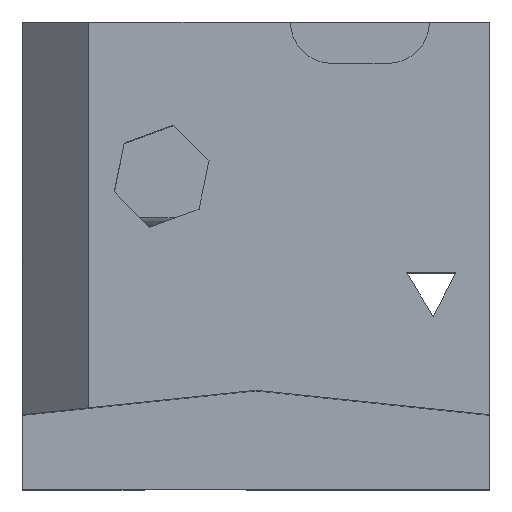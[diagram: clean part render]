
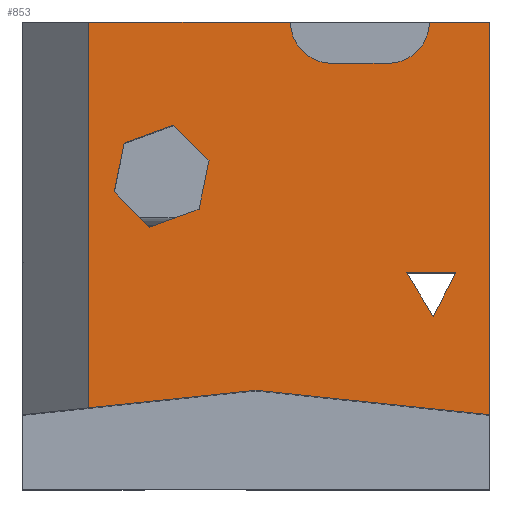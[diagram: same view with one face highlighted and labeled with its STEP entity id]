
A CAD part, top view. The second image highlights one B-rep face of the part: STEP entity #853.
In plain terms, the highlighted planar face has unit normal (0, 0, 1).
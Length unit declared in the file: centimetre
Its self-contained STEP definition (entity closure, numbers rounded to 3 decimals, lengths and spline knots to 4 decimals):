
#16 = DIRECTION ( 'NONE',  ( 0., 0., 1. ) ) ;
#33 = DIRECTION ( 'NONE',  ( -0.199, -0.98, 0. ) ) ;
#36 = ORIENTED_EDGE ( 'NONE', *, *, #1587, .F. ) ;
#73 = CARTESIAN_POINT ( 'NONE',  ( 196.5226, 636.1758, 1000. ) ) ;
#85 = EDGE_CURVE ( 'NONE', #348, #1634, #1268, .T. ) ;
#86 = EDGE_CURVE ( 'NONE', #402, #163, #1534, .T. ) ;
#96 = AXIS2_PLACEMENT_3D ( 'NONE', #781, #16, #156 ) ;
#100 = ORIENTED_EDGE ( 'NONE', *, *, #414, .F. ) ;
#108 = DIRECTION ( 'NONE',  ( 1., 0., 0. ) ) ;
#113 = CARTESIAN_POINT ( 'NONE',  ( 141.6223, 174.2078, 1000. ) ) ;
#132 = VECTOR ( 'NONE', #1555, 100. ) ;
#156 = DIRECTION ( 'NONE',  ( 1., 0., 0. ) ) ;
#163 = VERTEX_POINT ( 'NONE', #212 ) ;
#174 = EDGE_CURVE ( 'NONE', #947, #710, #589, .T. ) ;
#175 = LINE ( 'NONE', #692, #231 ) ;
#176 = CARTESIAN_POINT ( 'NONE',  ( 141.6223, 0., 1000. ) ) ;
#181 = LINE ( 'NONE', #680, #1250 ) ;
#184 = FACE_BOUND ( 'NONE', #929, .T. ) ;
#191 = CARTESIAN_POINT ( 'NONE',  ( 378.0626, 599.2182, 1000. ) ) ;
#198 = ORIENTED_EDGE ( 'NONE', *, *, #1582, .F. ) ;
#203 = EDGE_CURVE ( 'NONE', #833, #785, #1345, .T. ) ;
#212 = CARTESIAN_POINT ( 'NONE',  ( 1000., 1000., 1000. ) ) ;
#231 = VECTOR ( 'NONE', #1041, 100. ) ;
#235 = DIRECTION ( 'NONE',  ( 0.199, 0.98, 0. ) ) ;
#254 = VECTOR ( 'NONE', #1033, 100. ) ;
#262 = LINE ( 'NONE', #1155, #1283 ) ;
#263 = LINE ( 'NONE', #408, #847 ) ;
#269 = CARTESIAN_POINT ( 'NONE',  ( 879.308, 369.8212, 1000. ) ) ;
#277 = CARTESIAN_POINT ( 'NONE',  ( 141.6223, 1000., 1000. ) ) ;
#297 = LINE ( 'NONE', #1461, #1475 ) ;
#299 = DIRECTION ( 'NONE',  ( 1., 0., 0. ) ) ;
#302 = LINE ( 'NONE', #176, #799 ) ;
#304 = FACE_BOUND ( 'NONE', #793, .T. ) ;
#309 = ORIENTED_EDGE ( 'NONE', *, *, #174, .F. ) ;
#317 = ORIENTED_EDGE ( 'NONE', *, *, #203, .F. ) ;
#318 = CARTESIAN_POINT ( 'NONE',  ( 782.7104, 911.6292, 1000. ) ) ;
#328 = VECTOR ( 'NONE', #108, 100. ) ;
#348 = VERTEX_POINT ( 'NONE', #318 ) ;
#377 = DIRECTION ( 'NONE',  ( 0., 1., 0. ) ) ;
#390 = VECTOR ( 'NONE', #1614, 100. ) ;
#402 = VERTEX_POINT ( 'NONE', #1372 ) ;
#408 = CARTESIAN_POINT ( 'NONE',  ( 0., 1000., 1000. ) ) ;
#414 = EDGE_CURVE ( 'NONE', #710, #816, #1105, .T. ) ;
#418 = ORIENTED_EDGE ( 'NONE', *, *, #1392, .F. ) ;
#445 = AXIS2_PLACEMENT_3D ( 'NONE', #1458, #561, #299 ) ;
#455 = CARTESIAN_POINT ( 'NONE',  ( 662.2085, 911.6292, 1000. ) ) ;
#461 = LINE ( 'NONE', #1299, #1441 ) ;
#506 = DIRECTION ( 'NONE',  ( 1., 0., 0. ) ) ;
#522 = DIRECTION ( 'NONE',  ( -1., 0., 0. ) ) ;
#523 = CARTESIAN_POINT ( 'NONE',  ( 323.907, 779.5234, 1000. ) ) ;
#527 = CARTESIAN_POINT ( 'NONE',  ( 822.3655, 463.7025, 1000. ) ) ;
#540 = CARTESIAN_POINT ( 'NONE',  ( 573.8377, 1000., 1000. ) ) ;
#561 = DIRECTION ( 'NONE',  ( 0., 0., 1. ) ) ;
#570 = ORIENTED_EDGE ( 'NONE', *, *, #1466, .F. ) ;
#571 = EDGE_CURVE ( 'NONE', #785, #941, #1039, .T. ) ;
#588 = VERTEX_POINT ( 'NONE', #113 ) ;
#589 = LINE ( 'NONE', #733, #952 ) ;
#593 = CARTESIAN_POINT ( 'NONE',  ( 782.7104, 1000., 1000. ) ) ;
#594 = LINE ( 'NONE', #1266, #328 ) ;
#598 = CARTESIAN_POINT ( 'NONE',  ( 822.3655, 463.7025, 1000. ) ) ;
#612 = CARTESIAN_POINT ( 'NONE',  ( 500., 211.6255, 1000. ) ) ;
#655 = VECTOR ( 'NONE', #235, 100. ) ;
#678 = DIRECTION ( 'NONE',  ( -0.995, -0.104, 0. ) ) ;
#680 = CARTESIAN_POINT ( 'NONE',  ( 1000., 159.4212, 1000. ) ) ;
#692 = CARTESIAN_POINT ( 'NONE',  ( 272.0157, 560.6827, 1000. ) ) ;
#704 = EDGE_LOOP ( 'NONE', ( #198, #1008, #1148, #418, #892, #1036, #824, #1420, #570 ) ) ;
#710 = VERTEX_POINT ( 'NONE', #527 ) ;
#722 = VECTOR ( 'NONE', #754, 100. ) ;
#733 = CARTESIAN_POINT ( 'NONE',  ( 928.0301, 463.7025, 1000. ) ) ;
#741 = DIRECTION ( 'NONE',  ( -1., 0., 0. ) ) ;
#744 = EDGE_CURVE ( 'NONE', #1053, #1160, #262, .T. ) ;
#754 = DIRECTION ( 'NONE',  ( 0.519, -0.855, 0. ) ) ;
#781 = CARTESIAN_POINT ( 'NONE',  ( 662.2085, 1000., 1000. ) ) ;
#785 = VERTEX_POINT ( 'NONE', #837 ) ;
#793 = EDGE_LOOP ( 'NONE', ( #36, #100, #309 ) ) ;
#799 = VECTOR ( 'NONE', #1206, 100. ) ;
#816 = VERTEX_POINT ( 'NONE', #1202 ) ;
#824 = ORIENTED_EDGE ( 'NONE', *, *, #1574, .T. ) ;
#827 = VERTEX_POINT ( 'NONE', #455 ) ;
#833 = VERTEX_POINT ( 'NONE', #1185 ) ;
#835 = CARTESIAN_POINT ( 'NONE',  ( 196.5226, 636.1758, 1000. ) ) ;
#837 = CARTESIAN_POINT ( 'NONE',  ( 399.4001, 704.0303, 1000. ) ) ;
#847 = VECTOR ( 'NONE', #1156, 100. ) ;
#853 = ADVANCED_FACE ( 'NONE', ( #304, #184, #946 ), #1583, .T. ) ;
#892 = ORIENTED_EDGE ( 'NONE', *, *, #1046, .F. ) ;
#903 = ORIENTED_EDGE ( 'NONE', *, *, #1271, .F. ) ;
#904 = AXIS2_PLACEMENT_3D ( 'NONE', #593, #987, #506 ) ;
#929 = EDGE_LOOP ( 'NONE', ( #317, #1045, #903, #1349, #1061, #1569 ) ) ;
#941 = VERTEX_POINT ( 'NONE', #1521 ) ;
#946 = FACE_OUTER_BOUND ( 'NONE', #704, .T. ) ;
#947 = VERTEX_POINT ( 'NONE', #1402 ) ;
#952 = VECTOR ( 'NONE', #741, 100. ) ;
#987 = DIRECTION ( 'NONE',  ( 0., 0., 1. ) ) ;
#1008 = ORIENTED_EDGE ( 'NONE', *, *, #744, .T. ) ;
#1033 = DIRECTION ( 'NONE',  ( 0.461, 0.888, 0. ) ) ;
#1036 = ORIENTED_EDGE ( 'NONE', *, *, #86, .T. ) ;
#1039 = LINE ( 'NONE', #1531, #132 ) ;
#1041 = DIRECTION ( 'NONE',  ( 0.94, 0.342, 0. ) ) ;
#1045 = ORIENTED_EDGE ( 'NONE', *, *, #1087, .F. ) ;
#1046 = EDGE_CURVE ( 'NONE', #402, #1456, #181, .T. ) ;
#1053 = VERTEX_POINT ( 'NONE', #540 ) ;
#1056 = EDGE_CURVE ( 'NONE', #1386, #1656, #297, .T. ) ;
#1061 = ORIENTED_EDGE ( 'NONE', *, *, #1573, .F. ) ;
#1082 = LINE ( 'NONE', #835, #390 ) ;
#1087 = EDGE_CURVE ( 'NONE', #1192, #833, #175, .T. ) ;
#1105 = LINE ( 'NONE', #598, #722 ) ;
#1106 = CARTESIAN_POINT ( 'NONE',  ( 272.0157, 560.6827, 1000. ) ) ;
#1122 = CARTESIAN_POINT ( 'NONE',  ( 1000., 1000., 1000. ) ) ;
#1148 = ORIENTED_EDGE ( 'NONE', *, *, #1633, .T. ) ;
#1155 = CARTESIAN_POINT ( 'NONE',  ( 0., 1000., 1000. ) ) ;
#1156 = DIRECTION ( 'NONE',  ( -1., 0., 0. ) ) ;
#1160 = VERTEX_POINT ( 'NONE', #277 ) ;
#1185 = CARTESIAN_POINT ( 'NONE',  ( 378.0626, 599.2182, 1000. ) ) ;
#1191 = CIRCLE ( 'NONE', #96, 88.3708 ) ;
#1192 = VERTEX_POINT ( 'NONE', #1106 ) ;
#1202 = CARTESIAN_POINT ( 'NONE',  ( 879.308, 369.8212, 1000. ) ) ;
#1206 = DIRECTION ( 'NONE',  ( 0., -1., 0. ) ) ;
#1250 = VECTOR ( 'NONE', #1323, 100. ) ;
#1266 = CARTESIAN_POINT ( 'NONE',  ( 662.2085, 911.6292, 1000. ) ) ;
#1268 = CIRCLE ( 'NONE', #904, 88.3708 ) ;
#1271 = EDGE_CURVE ( 'NONE', #1656, #1192, #1082, .T. ) ;
#1283 = VECTOR ( 'NONE', #522, 100. ) ;
#1299 = CARTESIAN_POINT ( 'NONE',  ( 500., 211.6255, 1000. ) ) ;
#1323 = DIRECTION ( 'NONE',  ( -0.995, 0.104, 0. ) ) ;
#1345 = LINE ( 'NONE', #191, #655 ) ;
#1349 = ORIENTED_EDGE ( 'NONE', *, *, #1056, .F. ) ;
#1352 = VECTOR ( 'NONE', #377, 100. ) ;
#1354 = CARTESIAN_POINT ( 'NONE',  ( 871.0813, 1000., 1000. ) ) ;
#1372 = CARTESIAN_POINT ( 'NONE',  ( 1000., 159.4212, 1000. ) ) ;
#1386 = VERTEX_POINT ( 'NONE', #1561 ) ;
#1392 = EDGE_CURVE ( 'NONE', #1456, #588, #461, .T. ) ;
#1402 = CARTESIAN_POINT ( 'NONE',  ( 928.0301, 463.7025, 1000. ) ) ;
#1415 = DIRECTION ( 'NONE',  ( -0.94, -0.342, 0. ) ) ;
#1420 = ORIENTED_EDGE ( 'NONE', *, *, #85, .F. ) ;
#1425 = LINE ( 'NONE', #269, #254 ) ;
#1434 = LINE ( 'NONE', #523, #1594 ) ;
#1441 = VECTOR ( 'NONE', #678, 100. ) ;
#1456 = VERTEX_POINT ( 'NONE', #612 ) ;
#1458 = CARTESIAN_POINT ( 'NONE',  ( 0., 0., 1000. ) ) ;
#1461 = CARTESIAN_POINT ( 'NONE',  ( 217.8601, 740.9879, 1000. ) ) ;
#1466 = EDGE_CURVE ( 'NONE', #827, #348, #594, .T. ) ;
#1475 = VECTOR ( 'NONE', #33, 100. ) ;
#1521 = CARTESIAN_POINT ( 'NONE',  ( 323.907, 779.5234, 1000. ) ) ;
#1531 = CARTESIAN_POINT ( 'NONE',  ( 399.4001, 704.0303, 1000. ) ) ;
#1534 = LINE ( 'NONE', #1122, #1352 ) ;
#1555 = DIRECTION ( 'NONE',  ( -0.707, 0.707, 0. ) ) ;
#1561 = CARTESIAN_POINT ( 'NONE',  ( 217.8601, 740.9879, 1000. ) ) ;
#1569 = ORIENTED_EDGE ( 'NONE', *, *, #571, .F. ) ;
#1573 = EDGE_CURVE ( 'NONE', #941, #1386, #1434, .T. ) ;
#1574 = EDGE_CURVE ( 'NONE', #163, #1634, #263, .T. ) ;
#1582 = EDGE_CURVE ( 'NONE', #1053, #827, #1191, .T. ) ;
#1583 = PLANE ( 'NONE',  #445 ) ;
#1587 = EDGE_CURVE ( 'NONE', #816, #947, #1425, .T. ) ;
#1594 = VECTOR ( 'NONE', #1415, 100. ) ;
#1614 = DIRECTION ( 'NONE',  ( 0.707, -0.707, 0. ) ) ;
#1633 = EDGE_CURVE ( 'NONE', #1160, #588, #302, .T. ) ;
#1634 = VERTEX_POINT ( 'NONE', #1354 ) ;
#1656 = VERTEX_POINT ( 'NONE', #73 ) ;
